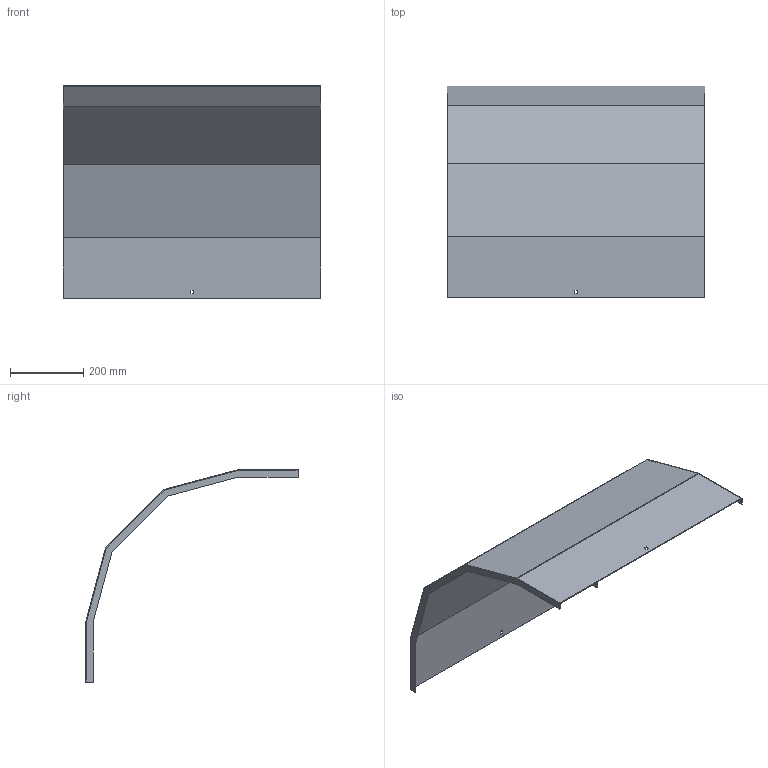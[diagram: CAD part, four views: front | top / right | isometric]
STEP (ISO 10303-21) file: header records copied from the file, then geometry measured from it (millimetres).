
FILE_DESCRIPTION (( 'STEP AP214' ), '1' );
FILE_NAME ('A2_33N3J700.step', '2025-02-21T10:45:44', ( '' ), ( '' ), 'SwSTEP 2.0', 'SolidWorks 2023', '' );
FILE_SCHEMA (( 'AUTOMOTIVE_DESIGN' ));
Length unit declared in the file: millimetre
Products named in the file (1): A2_33N3J700
Bounding box: 703 x 579.05 x 579.05 mm (x, y, z)
Volume: 1076491.3 mm3; surface area: 1440458.4 mm2
Topology: 1 solids, 1 shells, 34 faces, 96 edges, 64 vertices
Faces by surface type: plane 34
Entity records: 1111 total; most frequent: CARTESIAN_POINT 195, ORIENTED_EDGE 192, DIRECTION 166, VECTOR 96, EDGE_CURVE 96, LINE 96, VERTEX_POINT 64, EDGE_LOOP 38
